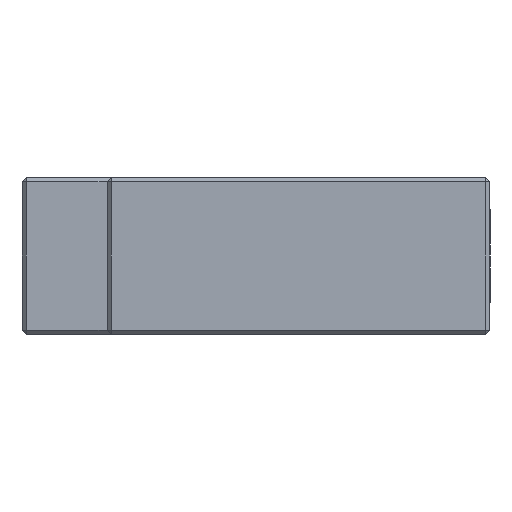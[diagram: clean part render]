
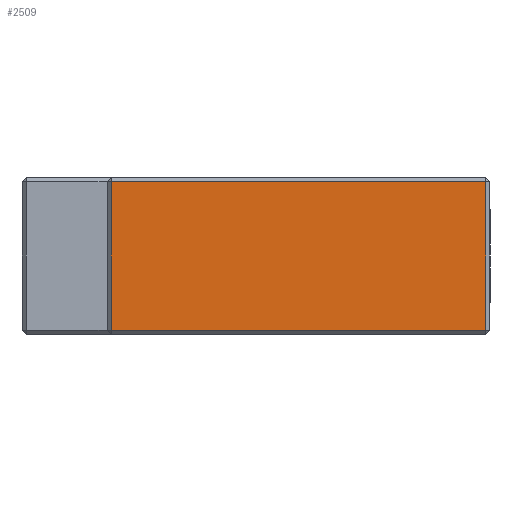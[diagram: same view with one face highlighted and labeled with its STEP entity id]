
A CAD part, left-side view. The second image highlights one B-rep face of the part: STEP entity #2509.
In plain terms, the highlighted planar face has unit normal (-1, 0, 0).
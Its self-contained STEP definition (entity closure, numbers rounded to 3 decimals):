
#99 = AXIS2_PLACEMENT_3D ( 'NONE', #2354, #2358, #2230 ) ;
#246 = LINE ( 'NONE', #956, #4367 ) ;
#477 = VECTOR ( 'NONE', #789, 1000. ) ;
#658 = CARTESIAN_POINT ( 'NONE',  ( -80., 90., -17.5 ) ) ;
#685 = DIRECTION ( 'NONE',  ( 0., -1., 0. ) ) ;
#789 = DIRECTION ( 'NONE',  ( 0., 0., 1. ) ) ;
#855 = EDGE_CURVE ( 'NONE', #1763, #1191, #1560, .T. ) ;
#876 = LINE ( 'NONE', #3281, #3953 ) ;
#940 = CARTESIAN_POINT ( 'NONE',  ( -80., 1., 17.5 ) ) ;
#944 = DIRECTION ( 'NONE',  ( 0., 0., -1. ) ) ;
#956 = CARTESIAN_POINT ( 'NONE',  ( -80., 89., 18.5 ) ) ;
#962 = EDGE_CURVE ( 'NONE', #2501, #1763, #3056, .T. ) ;
#1126 = CARTESIAN_POINT ( 'NONE',  ( -80., 1., -17.5 ) ) ;
#1191 = VERTEX_POINT ( 'NONE', #940 ) ;
#1220 = DIRECTION ( 'NONE',  ( 0., 1., 0. ) ) ;
#1432 = CARTESIAN_POINT ( 'NONE',  ( -80., 1., 18.5 ) ) ;
#1560 = LINE ( 'NONE', #1432, #477 ) ;
#1718 = VERTEX_POINT ( 'NONE', #3292 ) ;
#1729 = EDGE_CURVE ( 'NONE', #1191, #1718, #876, .T. ) ;
#1763 = VERTEX_POINT ( 'NONE', #1126 ) ;
#1764 = ORIENTED_EDGE ( 'NONE', *, *, #2631, .T. ) ;
#2230 = DIRECTION ( 'NONE',  ( 0., 1., 0. ) ) ;
#2313 = PLANE ( 'NONE',  #99 ) ;
#2354 = CARTESIAN_POINT ( 'NONE',  ( -80., 90., 18.5 ) ) ;
#2358 = DIRECTION ( 'NONE',  ( 1., 0., 0. ) ) ;
#2501 = VERTEX_POINT ( 'NONE', #2775 ) ;
#2509 = ADVANCED_FACE ( 'NONE', ( #4611 ), #2313, .F. ) ;
#2631 = EDGE_CURVE ( 'NONE', #1718, #2501, #246, .T. ) ;
#2696 = ORIENTED_EDGE ( 'NONE', *, *, #962, .T. ) ;
#2775 = CARTESIAN_POINT ( 'NONE',  ( -80., 89., -17.5 ) ) ;
#3056 = LINE ( 'NONE', #658, #3976 ) ;
#3281 = CARTESIAN_POINT ( 'NONE',  ( -80., 90., 17.5 ) ) ;
#3292 = CARTESIAN_POINT ( 'NONE',  ( -80., 89., 17.5 ) ) ;
#3294 = EDGE_LOOP ( 'NONE', ( #2696, #3755, #4777, #1764 ) ) ;
#3755 = ORIENTED_EDGE ( 'NONE', *, *, #855, .T. ) ;
#3953 = VECTOR ( 'NONE', #1220, 1000. ) ;
#3976 = VECTOR ( 'NONE', #685, 1000. ) ;
#4367 = VECTOR ( 'NONE', #944, 1000. ) ;
#4611 = FACE_OUTER_BOUND ( 'NONE', #3294, .T. ) ;
#4777 = ORIENTED_EDGE ( 'NONE', *, *, #1729, .T. ) ;
